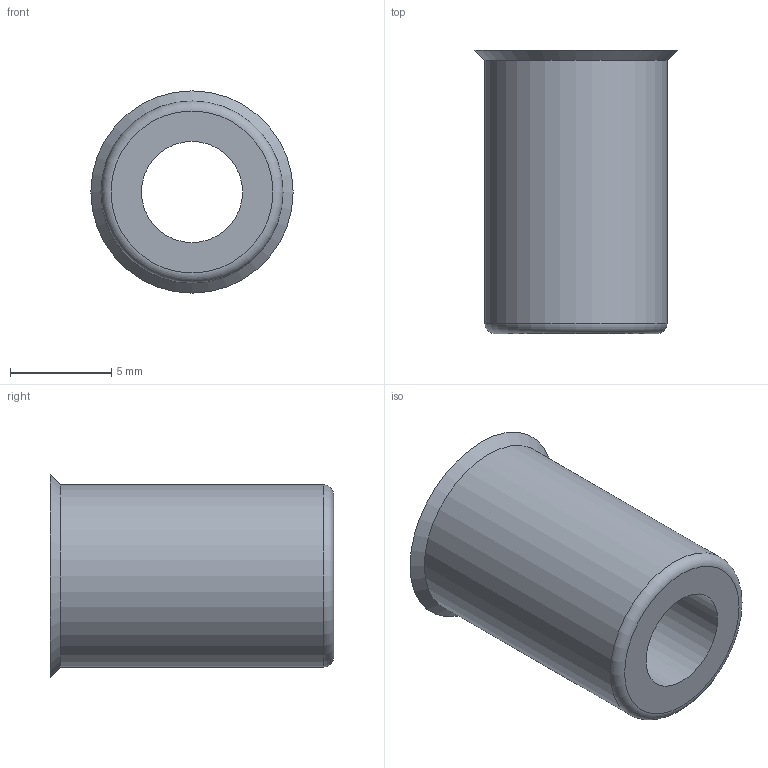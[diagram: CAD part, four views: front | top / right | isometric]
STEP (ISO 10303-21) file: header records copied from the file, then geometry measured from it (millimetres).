
FILE_DESCRIPTION (( 'STEP AP214' ), '1' );
FILE_NAME ('F10166.step', '2024-12-03T16:14:12', ( '' ), ( '' ), 'SwSTEP 2.0', 'SolidWorks 2023', '' );
FILE_SCHEMA (( 'AUTOMOTIVE_DESIGN' ));
Length unit declared in the file: millimetre
Products named in the file (1): F10166
Bounding box: 10 x 14 x 10 mm (x, y, z)
Volume: 470.7 mm3; surface area: 766.6 mm2
Topology: 1 solids, 1 shells, 8 faces, 15 edges, 10 vertices
Faces by surface type: plane 3, cylinder 3, cone 1, torus 1
Full cylindrical faces by diameter (mm): 5 x1, 7.5 x1, 9 x1
Entity records: 191 total; most frequent: DIRECTION 34, CARTESIAN_POINT 25, AXIS2_PLACEMENT_3D 17, ORIENTED_EDGE 16, EDGE_LOOP 16, FACE_OUTER_BOUND 12, ADVANCED_FACE 8, EDGE_CURVE 8
